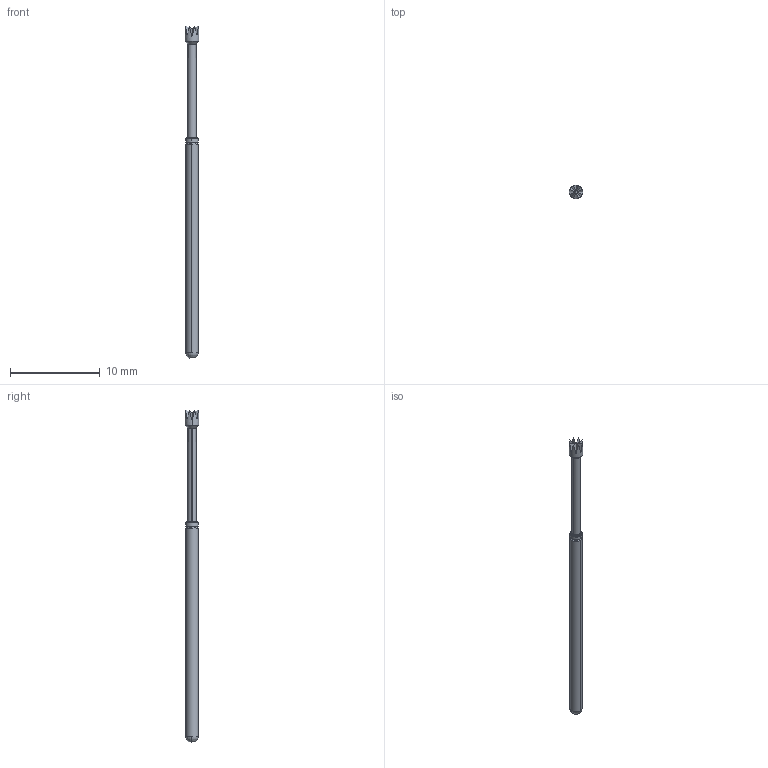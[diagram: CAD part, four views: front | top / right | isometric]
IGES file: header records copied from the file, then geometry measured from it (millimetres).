
Start section: SolidWorks IGES file using analytic representation for surfaces
Global section: file name: C:\Users\gzetwo.ECT\Desktop\LTP-25Z.IGS; native system: SolidWorks 2015; preprocessor: SolidWorks 2015; author: gzetwo; date: 160107.153722; units: inch
Bounding box: 1.52 x 1.52 x 37.08 mm (x, y, z)
Surface area: 151.6 mm2 (no closed solid volume)
Topology: 0 solids, 0 shells, 38 faces, 210 edges, 210 vertices
Faces by surface type: bspline 22, revolution 16
